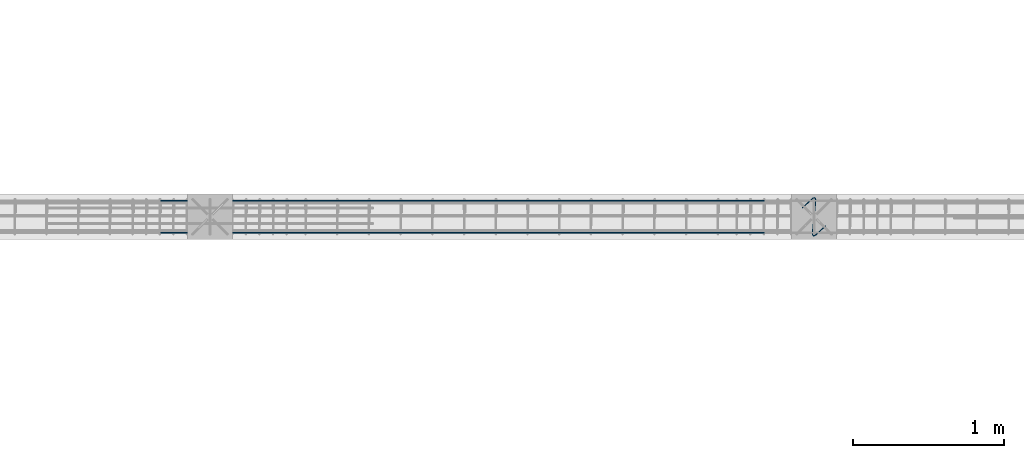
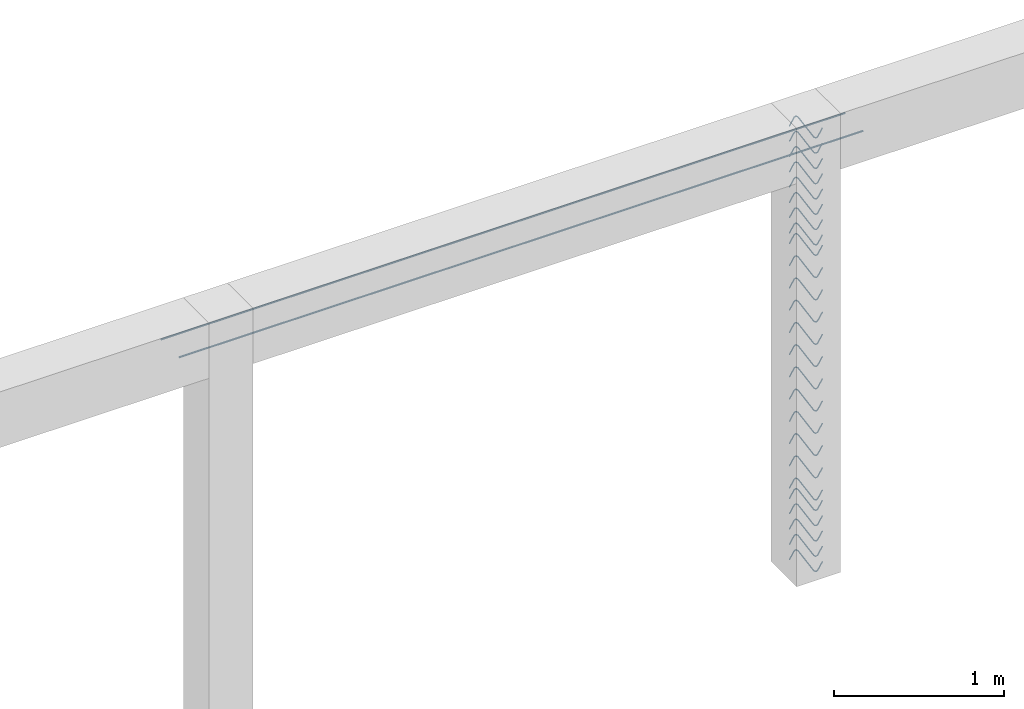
# One storey, part 10 of 24: 2 reinforcing bars.
"""IFC2X3 building model written with IfcOpenShell, lengths in metres."""

from ifc_helpers import new_model, entity, si_unit, direction, frame, origin, place, context, subcontext, project, spatial, shape, source, transform, mapped, element, save


model = new_model("IFC2X3")

# Units and contexts
model_context = context("Model", 3, precision=0.0, world=origin(), true_north=direction((0.0, 1.0)))
plan_context = context("Plan", 3, precision=0.0, world=origin(), true_north=direction((0.0, 1.0)))
body_context = subcontext(model_context, "Body", "Model", "MODEL_VIEW", scale=1.0)
ifc_project = project(units=[si_unit("LENGTHUNIT", "METRE"), si_unit("AREAUNIT", "SQUARE_METRE"), si_unit("VOLUMEUNIT", "CUBIC_METRE"), si_unit("PLANEANGLEUNIT", "RADIAN"), si_unit("THERMODYNAMICTEMPERATUREUNIT", "DEGREE_CELSIUS"), si_unit("FORCEUNIT", "NEWTON"), si_unit("MASSUNIT", "GRAM", prefix="KILO")], contexts=[model_context, plan_context])

# Site, building, storey
placement = place(None, origin())
site = spatial("IfcSite", under=ifc_project, at=placement, Name="Default Site", CompositionType="ELEMENT")
building = spatial("IfcBuilding", under=site, at=placement, Name="Default Building", CompositionType="ELEMENT")
storey_placement = place(placement, frame((0.0, 0.0, 3.3), z_axis=(1.0, 0.0, 0.0), x_axis=(0.0, 0.0, 1.0)))
storey = spatial("IfcBuildingStorey", under=building, at=storey_placement, Name="Piano 2", CompositionType="ELEMENT", Elevation=3.3)

# Reinforcing bars
shared_shape_1 = source(origin(), body_context, None, "AdvancedSweptSolid", [
    entity("IfcSweptDiskSolid", entity("IfcCompositeCurve", [entity("IfcCompositeCurveSegment", "CONTINUOUS", True, entity("IfcPolyline", [entity("IfcCartesianPoint", [0.0, 0.0, 0.0]), entity("IfcCartesianPoint", [0.326909, 0.0, 0.0]), entity("IfcCartesianPoint", [4.326909, 0.0, 0.0]), entity("IfcCartesianPoint", [4.653818, 0.0, 0.0])]))], False), 0.006, 0.0, 0.0),
])
shared_shape_2 = source(origin(), body_context, None, "MappedRepresentation", [mapped(shared_shape_1, transform((-0.326909, 5.106, 3.087)))])
shared_shape_3 = source(origin(), body_context, None, "AdvancedSweptSolid", [
    entity("IfcSweptDiskSolid", entity("IfcCompositeCurve", [entity("IfcCompositeCurveSegment", "CONTINUOUS", True, entity("IfcPolyline", [entity("IfcCartesianPoint", [0.0, 0.0, 0.0]), entity("IfcCartesianPoint", [0.326909, 0.0, 0.0]), entity("IfcCartesianPoint", [4.326909, 0.0, 0.0]), entity("IfcCartesianPoint", [4.653818, 0.0, 0.0])]))], False), 0.006, 0.0, 0.0),
])
shared_shape_4 = source(origin(), body_context, None, "MappedRepresentation", [mapped(shared_shape_3, transform((-0.326909, 4.894, 3.087)))])
element("IfcReinforcingBar", 1, at=placement, inside=storey, Name="Arm Generica; Trave:4 [Piano:2]", BarLength=9.307635, BarRole="NOTDEFINED", BarSurface="TEXTURED", NominalDiameter=0.012, shapes=[
    shape(body_context, None, "MappedRepresentation", [mapped(shared_shape_2, transform((0.0, 0.0, 0.0))), mapped(shared_shape_4, transform((0.0, 0.0, 0.0)))]),
])
shared_shape_5 = source(origin(), body_context, None, "AdvancedSweptSolid", [
    entity("IfcSweptDiskSolid", entity("IfcCompositeCurve", [entity("IfcCompositeCurveSegment", "CONTINUOUS", True, entity("IfcPolyline", [entity("IfcCartesianPoint", [0.0, 0.0, 0.0]), entity("IfcCartesianPoint", [-0.068884, -0.063585, 0.0]), entity("IfcCartesianPoint", [-0.079736, -0.067828, 0.0]), entity("IfcCartesianPoint", [-0.084613, -0.065808, 0.0]), entity("IfcCartesianPoint", [-0.089037, -0.055129, 0.0]), entity("IfcCartesianPoint", [-0.089037, -0.052272, 0.0]), entity("IfcCartesianPoint", [-0.067037, 0.168616, 0.0]), entity("IfcCartesianPoint", [-0.067037, 0.171101, 0.0]), entity("IfcCartesianPoint", [-0.071723, 0.182415, 0.0]), entity("IfcCartesianPoint", [-0.075966, 0.184172, 0.0]), entity("IfcCartesianPoint", [-0.08719, 0.179929, 0.0]), entity("IfcCartesianPoint", [-0.156073, 0.116344, 0.0])]))], False), 0.004, 0.0, 0.0),
])
shared_shape_6 = source(origin(), body_context, None, "AdvancedSweptSolid", [
    entity("IfcSweptDiskSolid", entity("IfcCompositeCurve", [entity("IfcCompositeCurveSegment", "CONTINUOUS", True, entity("IfcPolyline", [entity("IfcCartesianPoint", [0.0, 0.0, 0.0]), entity("IfcCartesianPoint", [-0.068884, -0.063585, 0.0]), entity("IfcCartesianPoint", [-0.079736, -0.067828, 0.0]), entity("IfcCartesianPoint", [-0.084613, -0.065808, 0.0]), entity("IfcCartesianPoint", [-0.089037, -0.055129, 0.0]), entity("IfcCartesianPoint", [-0.089037, -0.052272, 0.0]), entity("IfcCartesianPoint", [-0.067037, 0.168616, 0.0]), entity("IfcCartesianPoint", [-0.067037, 0.171101, 0.0]), entity("IfcCartesianPoint", [-0.071723, 0.182415, 0.0]), entity("IfcCartesianPoint", [-0.075966, 0.184172, 0.0]), entity("IfcCartesianPoint", [-0.08719, 0.179929, 0.0]), entity("IfcCartesianPoint", [-0.156073, 0.116344, 0.0])]))], False), 0.004, 0.0, 0.0),
])
shared_shape_7 = source(origin(), body_context, None, "AdvancedSweptSolid", [
    entity("IfcSweptDiskSolid", entity("IfcCompositeCurve", [entity("IfcCompositeCurveSegment", "CONTINUOUS", True, entity("IfcPolyline", [entity("IfcCartesianPoint", [0.0, 0.0, 0.0]), entity("IfcCartesianPoint", [-0.068884, -0.063585, 0.0]), entity("IfcCartesianPoint", [-0.079736, -0.067828, 0.0]), entity("IfcCartesianPoint", [-0.084613, -0.065808, 0.0]), entity("IfcCartesianPoint", [-0.089037, -0.055129, 0.0]), entity("IfcCartesianPoint", [-0.089037, -0.052272, 0.0]), entity("IfcCartesianPoint", [-0.067037, 0.168616, 0.0]), entity("IfcCartesianPoint", [-0.067037, 0.171101, 0.0]), entity("IfcCartesianPoint", [-0.071723, 0.182415, 0.0]), entity("IfcCartesianPoint", [-0.075966, 0.184172, 0.0]), entity("IfcCartesianPoint", [-0.08719, 0.179929, 0.0]), entity("IfcCartesianPoint", [-0.156073, 0.116344, 0.0])]))], False), 0.004, 0.0, 0.0),
])
shared_shape_8 = source(origin(), body_context, None, "AdvancedSweptSolid", [
    entity("IfcSweptDiskSolid", entity("IfcCompositeCurve", [entity("IfcCompositeCurveSegment", "CONTINUOUS", True, entity("IfcPolyline", [entity("IfcCartesianPoint", [0.0, 0.0, 0.0]), entity("IfcCartesianPoint", [-0.068884, -0.063585, 0.0]), entity("IfcCartesianPoint", [-0.079736, -0.067828, 0.0]), entity("IfcCartesianPoint", [-0.084613, -0.065808, 0.0]), entity("IfcCartesianPoint", [-0.089037, -0.055129, 0.0]), entity("IfcCartesianPoint", [-0.089037, -0.052272, 0.0]), entity("IfcCartesianPoint", [-0.067037, 0.168616, 0.0]), entity("IfcCartesianPoint", [-0.067037, 0.171101, 0.0]), entity("IfcCartesianPoint", [-0.071723, 0.182415, 0.0]), entity("IfcCartesianPoint", [-0.075966, 0.184172, 0.0]), entity("IfcCartesianPoint", [-0.08719, 0.179929, 0.0]), entity("IfcCartesianPoint", [-0.156073, 0.116344, 0.0])]))], False), 0.004, 0.0, 0.0),
])
shared_shape_9 = source(origin(), body_context, None, "AdvancedSweptSolid", [
    entity("IfcSweptDiskSolid", entity("IfcCompositeCurve", [entity("IfcCompositeCurveSegment", "CONTINUOUS", True, entity("IfcPolyline", [entity("IfcCartesianPoint", [0.0, 0.0, 0.0]), entity("IfcCartesianPoint", [-0.068884, -0.063585, 0.0]), entity("IfcCartesianPoint", [-0.079736, -0.067828, 0.0]), entity("IfcCartesianPoint", [-0.084613, -0.065808, 0.0]), entity("IfcCartesianPoint", [-0.089037, -0.055129, 0.0]), entity("IfcCartesianPoint", [-0.089037, -0.052272, 0.0]), entity("IfcCartesianPoint", [-0.067037, 0.168616, 0.0]), entity("IfcCartesianPoint", [-0.067037, 0.171101, 0.0]), entity("IfcCartesianPoint", [-0.071723, 0.182415, 0.0]), entity("IfcCartesianPoint", [-0.075966, 0.184172, 0.0]), entity("IfcCartesianPoint", [-0.08719, 0.179929, 0.0]), entity("IfcCartesianPoint", [-0.156073, 0.116344, 0.0])]))], False), 0.004, 0.0, 0.0),
])
shared_shape_10 = source(origin(), body_context, None, "AdvancedSweptSolid", [
    entity("IfcSweptDiskSolid", entity("IfcCompositeCurve", [entity("IfcCompositeCurveSegment", "CONTINUOUS", True, entity("IfcPolyline", [entity("IfcCartesianPoint", [0.0, 0.0, 0.0]), entity("IfcCartesianPoint", [-0.068884, -0.063585, 0.0]), entity("IfcCartesianPoint", [-0.079736, -0.067828, 0.0]), entity("IfcCartesianPoint", [-0.084613, -0.065808, 0.0]), entity("IfcCartesianPoint", [-0.089037, -0.055129, 0.0]), entity("IfcCartesianPoint", [-0.089037, -0.052272, 0.0]), entity("IfcCartesianPoint", [-0.067037, 0.168616, 0.0]), entity("IfcCartesianPoint", [-0.067037, 0.171101, 0.0]), entity("IfcCartesianPoint", [-0.071723, 0.182415, 0.0]), entity("IfcCartesianPoint", [-0.075966, 0.184172, 0.0]), entity("IfcCartesianPoint", [-0.08719, 0.179929, 0.0]), entity("IfcCartesianPoint", [-0.156073, 0.116344, 0.0])]))], False), 0.004, 0.0, 0.0),
])
shared_shape_11 = source(origin(), body_context, None, "AdvancedSweptSolid", [
    entity("IfcSweptDiskSolid", entity("IfcCompositeCurve", [entity("IfcCompositeCurveSegment", "CONTINUOUS", True, entity("IfcPolyline", [entity("IfcCartesianPoint", [0.0, 0.0, 0.0]), entity("IfcCartesianPoint", [-0.068884, -0.063585, 0.0]), entity("IfcCartesianPoint", [-0.079736, -0.067828, 0.0]), entity("IfcCartesianPoint", [-0.084613, -0.065808, 0.0]), entity("IfcCartesianPoint", [-0.089037, -0.055129, 0.0]), entity("IfcCartesianPoint", [-0.089037, -0.052272, 0.0]), entity("IfcCartesianPoint", [-0.067037, 0.168616, 0.0]), entity("IfcCartesianPoint", [-0.067037, 0.171101, 0.0]), entity("IfcCartesianPoint", [-0.071723, 0.182415, 0.0]), entity("IfcCartesianPoint", [-0.075966, 0.184172, 0.0]), entity("IfcCartesianPoint", [-0.08719, 0.179929, 0.0]), entity("IfcCartesianPoint", [-0.156073, 0.116344, 0.0])]))], False), 0.004, 0.0, 0.0),
])
shared_shape_12 = source(origin(), body_context, None, "AdvancedSweptSolid", [
    entity("IfcSweptDiskSolid", entity("IfcCompositeCurve", [entity("IfcCompositeCurveSegment", "CONTINUOUS", True, entity("IfcPolyline", [entity("IfcCartesianPoint", [0.0, 0.0, 0.0]), entity("IfcCartesianPoint", [-0.068884, -0.063585, 0.0]), entity("IfcCartesianPoint", [-0.079736, -0.067828, 0.0]), entity("IfcCartesianPoint", [-0.084613, -0.065808, 0.0]), entity("IfcCartesianPoint", [-0.089037, -0.055129, 0.0]), entity("IfcCartesianPoint", [-0.089037, -0.052272, 0.0]), entity("IfcCartesianPoint", [-0.067037, 0.168616, 0.0]), entity("IfcCartesianPoint", [-0.067037, 0.171101, 0.0]), entity("IfcCartesianPoint", [-0.071723, 0.182415, 0.0]), entity("IfcCartesianPoint", [-0.075966, 0.184172, 0.0]), entity("IfcCartesianPoint", [-0.08719, 0.179929, 0.0]), entity("IfcCartesianPoint", [-0.156073, 0.116344, 0.0])]))], False), 0.004, 0.0, 0.0),
])
shared_shape_13 = source(origin(), body_context, None, "AdvancedSweptSolid", [
    entity("IfcSweptDiskSolid", entity("IfcCompositeCurve", [entity("IfcCompositeCurveSegment", "CONTINUOUS", True, entity("IfcPolyline", [entity("IfcCartesianPoint", [0.0, 0.0, 0.0]), entity("IfcCartesianPoint", [-0.068884, -0.063585, 0.0]), entity("IfcCartesianPoint", [-0.079736, -0.067828, 0.0]), entity("IfcCartesianPoint", [-0.084613, -0.065808, 0.0]), entity("IfcCartesianPoint", [-0.089037, -0.055129, 0.0]), entity("IfcCartesianPoint", [-0.089037, -0.052272, 0.0]), entity("IfcCartesianPoint", [-0.067037, 0.168616, 0.0]), entity("IfcCartesianPoint", [-0.067037, 0.171101, 0.0]), entity("IfcCartesianPoint", [-0.071723, 0.182415, 0.0]), entity("IfcCartesianPoint", [-0.075966, 0.184172, 0.0]), entity("IfcCartesianPoint", [-0.08719, 0.179929, 0.0]), entity("IfcCartesianPoint", [-0.156073, 0.116344, 0.0])]))], False), 0.004, 0.0, 0.0),
])
shared_shape_14 = source(origin(), body_context, None, "AdvancedSweptSolid", [
    entity("IfcSweptDiskSolid", entity("IfcCompositeCurve", [entity("IfcCompositeCurveSegment", "CONTINUOUS", True, entity("IfcPolyline", [entity("IfcCartesianPoint", [0.0, 0.0, 0.0]), entity("IfcCartesianPoint", [-0.068884, -0.063585, 0.0]), entity("IfcCartesianPoint", [-0.079736, -0.067828, 0.0]), entity("IfcCartesianPoint", [-0.084613, -0.065808, 0.0]), entity("IfcCartesianPoint", [-0.089037, -0.055129, 0.0]), entity("IfcCartesianPoint", [-0.089037, -0.052272, 0.0]), entity("IfcCartesianPoint", [-0.067037, 0.168616, 0.0]), entity("IfcCartesianPoint", [-0.067037, 0.171101, 0.0]), entity("IfcCartesianPoint", [-0.071723, 0.182415, 0.0]), entity("IfcCartesianPoint", [-0.075966, 0.184172, 0.0]), entity("IfcCartesianPoint", [-0.08719, 0.179929, 0.0]), entity("IfcCartesianPoint", [-0.156073, 0.116344, 0.0])]))], False), 0.004, 0.0, 0.0),
])
shared_shape_15 = source(origin(), body_context, None, "AdvancedSweptSolid", [
    entity("IfcSweptDiskSolid", entity("IfcCompositeCurve", [entity("IfcCompositeCurveSegment", "CONTINUOUS", True, entity("IfcPolyline", [entity("IfcCartesianPoint", [0.0, 0.0, 0.0]), entity("IfcCartesianPoint", [-0.068884, -0.063585, 0.0]), entity("IfcCartesianPoint", [-0.079736, -0.067828, 0.0]), entity("IfcCartesianPoint", [-0.084613, -0.065808, 0.0]), entity("IfcCartesianPoint", [-0.089037, -0.055129, 0.0]), entity("IfcCartesianPoint", [-0.089037, -0.052272, 0.0]), entity("IfcCartesianPoint", [-0.067037, 0.168616, 0.0]), entity("IfcCartesianPoint", [-0.067037, 0.171101, 0.0]), entity("IfcCartesianPoint", [-0.071723, 0.182415, 0.0]), entity("IfcCartesianPoint", [-0.075966, 0.184172, 0.0]), entity("IfcCartesianPoint", [-0.08719, 0.179929, 0.0]), entity("IfcCartesianPoint", [-0.156073, 0.116344, 0.0])]))], False), 0.004, 0.0, 0.0),
])
shared_shape_16 = source(origin(), body_context, None, "AdvancedSweptSolid", [
    entity("IfcSweptDiskSolid", entity("IfcCompositeCurve", [entity("IfcCompositeCurveSegment", "CONTINUOUS", True, entity("IfcPolyline", [entity("IfcCartesianPoint", [0.0, 0.0, 0.0]), entity("IfcCartesianPoint", [-0.068884, -0.063585, 0.0]), entity("IfcCartesianPoint", [-0.079736, -0.067828, 0.0]), entity("IfcCartesianPoint", [-0.084613, -0.065808, 0.0]), entity("IfcCartesianPoint", [-0.089037, -0.055129, 0.0]), entity("IfcCartesianPoint", [-0.089037, -0.052272, 0.0]), entity("IfcCartesianPoint", [-0.067037, 0.168616, 0.0]), entity("IfcCartesianPoint", [-0.067037, 0.171101, 0.0]), entity("IfcCartesianPoint", [-0.071723, 0.182415, 0.0]), entity("IfcCartesianPoint", [-0.075966, 0.184172, 0.0]), entity("IfcCartesianPoint", [-0.08719, 0.179929, 0.0]), entity("IfcCartesianPoint", [-0.156073, 0.116344, 0.0])]))], False), 0.004, 0.0, 0.0),
])
shared_shape_17 = source(origin(), body_context, None, "AdvancedSweptSolid", [
    entity("IfcSweptDiskSolid", entity("IfcCompositeCurve", [entity("IfcCompositeCurveSegment", "CONTINUOUS", True, entity("IfcPolyline", [entity("IfcCartesianPoint", [0.0, 0.0, 0.0]), entity("IfcCartesianPoint", [-0.068884, -0.063585, 0.0]), entity("IfcCartesianPoint", [-0.079736, -0.067828, 0.0]), entity("IfcCartesianPoint", [-0.084613, -0.065808, 0.0]), entity("IfcCartesianPoint", [-0.089037, -0.055129, 0.0]), entity("IfcCartesianPoint", [-0.089037, -0.052272, 0.0]), entity("IfcCartesianPoint", [-0.067037, 0.168616, 0.0]), entity("IfcCartesianPoint", [-0.067037, 0.171101, 0.0]), entity("IfcCartesianPoint", [-0.071723, 0.182415, 0.0]), entity("IfcCartesianPoint", [-0.075966, 0.184172, 0.0]), entity("IfcCartesianPoint", [-0.08719, 0.179929, 0.0]), entity("IfcCartesianPoint", [-0.156073, 0.116344, 0.0])]))], False), 0.004, 0.0, 0.0),
])
shared_shape_18 = source(origin(), body_context, None, "AdvancedSweptSolid", [
    entity("IfcSweptDiskSolid", entity("IfcCompositeCurve", [entity("IfcCompositeCurveSegment", "CONTINUOUS", True, entity("IfcPolyline", [entity("IfcCartesianPoint", [0.0, 0.0, 0.0]), entity("IfcCartesianPoint", [-0.068884, -0.063585, 0.0]), entity("IfcCartesianPoint", [-0.079736, -0.067828, 0.0]), entity("IfcCartesianPoint", [-0.084613, -0.065808, 0.0]), entity("IfcCartesianPoint", [-0.089037, -0.055129, 0.0]), entity("IfcCartesianPoint", [-0.089037, -0.052272, 0.0]), entity("IfcCartesianPoint", [-0.067037, 0.168616, 0.0]), entity("IfcCartesianPoint", [-0.067037, 0.171101, 0.0]), entity("IfcCartesianPoint", [-0.071723, 0.182415, 0.0]), entity("IfcCartesianPoint", [-0.075966, 0.184172, 0.0]), entity("IfcCartesianPoint", [-0.08719, 0.179929, 0.0]), entity("IfcCartesianPoint", [-0.156073, 0.116344, 0.0])]))], False), 0.004, 0.0, 0.0),
])
shared_shape_19 = source(origin(), body_context, None, "AdvancedSweptSolid", [
    entity("IfcSweptDiskSolid", entity("IfcCompositeCurve", [entity("IfcCompositeCurveSegment", "CONTINUOUS", True, entity("IfcPolyline", [entity("IfcCartesianPoint", [0.0, 0.0, 0.0]), entity("IfcCartesianPoint", [-0.068884, -0.063585, 0.0]), entity("IfcCartesianPoint", [-0.079736, -0.067828, 0.0]), entity("IfcCartesianPoint", [-0.084613, -0.065808, 0.0]), entity("IfcCartesianPoint", [-0.089037, -0.055129, 0.0]), entity("IfcCartesianPoint", [-0.089037, -0.052272, 0.0]), entity("IfcCartesianPoint", [-0.067037, 0.168616, 0.0]), entity("IfcCartesianPoint", [-0.067037, 0.171101, 0.0]), entity("IfcCartesianPoint", [-0.071723, 0.182415, 0.0]), entity("IfcCartesianPoint", [-0.075966, 0.184172, 0.0]), entity("IfcCartesianPoint", [-0.08719, 0.179929, 0.0]), entity("IfcCartesianPoint", [-0.156073, 0.116344, 0.0])]))], False), 0.004, 0.0, 0.0),
])
shared_shape_20 = source(origin(), body_context, None, "AdvancedSweptSolid", [
    entity("IfcSweptDiskSolid", entity("IfcCompositeCurve", [entity("IfcCompositeCurveSegment", "CONTINUOUS", True, entity("IfcPolyline", [entity("IfcCartesianPoint", [0.0, 0.0, 0.0]), entity("IfcCartesianPoint", [-0.068884, -0.063585, 0.0]), entity("IfcCartesianPoint", [-0.079736, -0.067828, 0.0]), entity("IfcCartesianPoint", [-0.084613, -0.065808, 0.0]), entity("IfcCartesianPoint", [-0.089037, -0.055129, 0.0]), entity("IfcCartesianPoint", [-0.089037, -0.052272, 0.0]), entity("IfcCartesianPoint", [-0.067037, 0.168616, 0.0]), entity("IfcCartesianPoint", [-0.067037, 0.171101, 0.0]), entity("IfcCartesianPoint", [-0.071723, 0.182415, 0.0]), entity("IfcCartesianPoint", [-0.075966, 0.184172, 0.0]), entity("IfcCartesianPoint", [-0.08719, 0.179929, 0.0]), entity("IfcCartesianPoint", [-0.156073, 0.116344, 0.0])]))], False), 0.004, 0.0, 0.0),
])
shared_shape_21 = source(origin(), body_context, None, "AdvancedSweptSolid", [
    entity("IfcSweptDiskSolid", entity("IfcCompositeCurve", [entity("IfcCompositeCurveSegment", "CONTINUOUS", True, entity("IfcPolyline", [entity("IfcCartesianPoint", [0.0, 0.0, 0.0]), entity("IfcCartesianPoint", [-0.068884, -0.063585, 0.0]), entity("IfcCartesianPoint", [-0.079736, -0.067828, 0.0]), entity("IfcCartesianPoint", [-0.084613, -0.065808, 0.0]), entity("IfcCartesianPoint", [-0.089037, -0.055129, 0.0]), entity("IfcCartesianPoint", [-0.089037, -0.052272, 0.0]), entity("IfcCartesianPoint", [-0.067037, 0.168616, 0.0]), entity("IfcCartesianPoint", [-0.067037, 0.171101, 0.0]), entity("IfcCartesianPoint", [-0.071723, 0.182415, 0.0]), entity("IfcCartesianPoint", [-0.075966, 0.184172, 0.0]), entity("IfcCartesianPoint", [-0.08719, 0.179929, 0.0]), entity("IfcCartesianPoint", [-0.156073, 0.116344, 0.0])]))], False), 0.004, 0.0, 0.0),
])
shared_shape_22 = source(origin(), body_context, None, "AdvancedSweptSolid", [
    entity("IfcSweptDiskSolid", entity("IfcCompositeCurve", [entity("IfcCompositeCurveSegment", "CONTINUOUS", True, entity("IfcPolyline", [entity("IfcCartesianPoint", [0.0, 0.0, 0.0]), entity("IfcCartesianPoint", [-0.068884, -0.063585, 0.0]), entity("IfcCartesianPoint", [-0.079736, -0.067828, 0.0]), entity("IfcCartesianPoint", [-0.084613, -0.065808, 0.0]), entity("IfcCartesianPoint", [-0.089037, -0.055129, 0.0]), entity("IfcCartesianPoint", [-0.089037, -0.052272, 0.0]), entity("IfcCartesianPoint", [-0.067037, 0.168616, 0.0]), entity("IfcCartesianPoint", [-0.067037, 0.171101, 0.0]), entity("IfcCartesianPoint", [-0.071723, 0.182415, 0.0]), entity("IfcCartesianPoint", [-0.075966, 0.184172, 0.0]), entity("IfcCartesianPoint", [-0.08719, 0.179929, 0.0]), entity("IfcCartesianPoint", [-0.156073, 0.116344, 0.0])]))], False), 0.004, 0.0, 0.0),
])
shared_shape_23 = source(origin(), body_context, None, "AdvancedSweptSolid", [
    entity("IfcSweptDiskSolid", entity("IfcCompositeCurve", [entity("IfcCompositeCurveSegment", "CONTINUOUS", True, entity("IfcPolyline", [entity("IfcCartesianPoint", [0.0, 0.0, 0.0]), entity("IfcCartesianPoint", [-0.068884, -0.063585, 0.0]), entity("IfcCartesianPoint", [-0.079736, -0.067828, 0.0]), entity("IfcCartesianPoint", [-0.084613, -0.065808, 0.0]), entity("IfcCartesianPoint", [-0.089037, -0.055129, 0.0]), entity("IfcCartesianPoint", [-0.089037, -0.052272, 0.0]), entity("IfcCartesianPoint", [-0.067037, 0.168616, 0.0]), entity("IfcCartesianPoint", [-0.067037, 0.171101, 0.0]), entity("IfcCartesianPoint", [-0.071723, 0.182415, 0.0]), entity("IfcCartesianPoint", [-0.075966, 0.184172, 0.0]), entity("IfcCartesianPoint", [-0.08719, 0.179929, 0.0]), entity("IfcCartesianPoint", [-0.156073, 0.116344, 0.0])]))], False), 0.004, 0.0, 0.0),
])
shared_shape_24 = source(origin(), body_context, None, "AdvancedSweptSolid", [
    entity("IfcSweptDiskSolid", entity("IfcCompositeCurve", [entity("IfcCompositeCurveSegment", "CONTINUOUS", True, entity("IfcPolyline", [entity("IfcCartesianPoint", [0.0, 0.0, 0.0]), entity("IfcCartesianPoint", [-0.068884, -0.063585, 0.0]), entity("IfcCartesianPoint", [-0.079736, -0.067828, 0.0]), entity("IfcCartesianPoint", [-0.084613, -0.065808, 0.0]), entity("IfcCartesianPoint", [-0.089037, -0.055129, 0.0]), entity("IfcCartesianPoint", [-0.089037, -0.052272, 0.0]), entity("IfcCartesianPoint", [-0.067037, 0.168616, 0.0]), entity("IfcCartesianPoint", [-0.067037, 0.171101, 0.0]), entity("IfcCartesianPoint", [-0.071723, 0.182415, 0.0]), entity("IfcCartesianPoint", [-0.075966, 0.184172, 0.0]), entity("IfcCartesianPoint", [-0.08719, 0.179929, 0.0]), entity("IfcCartesianPoint", [-0.156073, 0.116344, 0.0])]))], False), 0.004, 0.0, 0.0),
])
shared_shape_25 = source(origin(), body_context, None, "AdvancedSweptSolid", [
    entity("IfcSweptDiskSolid", entity("IfcCompositeCurve", [entity("IfcCompositeCurveSegment", "CONTINUOUS", True, entity("IfcPolyline", [entity("IfcCartesianPoint", [0.0, 0.0, 0.0]), entity("IfcCartesianPoint", [-0.068884, -0.063585, 0.0]), entity("IfcCartesianPoint", [-0.079736, -0.067828, 0.0]), entity("IfcCartesianPoint", [-0.084613, -0.065808, 0.0]), entity("IfcCartesianPoint", [-0.089037, -0.055129, 0.0]), entity("IfcCartesianPoint", [-0.089037, -0.052272, 0.0]), entity("IfcCartesianPoint", [-0.067037, 0.168616, 0.0]), entity("IfcCartesianPoint", [-0.067037, 0.171101, 0.0]), entity("IfcCartesianPoint", [-0.071723, 0.182415, 0.0]), entity("IfcCartesianPoint", [-0.075966, 0.184172, 0.0]), entity("IfcCartesianPoint", [-0.08719, 0.179929, 0.0]), entity("IfcCartesianPoint", [-0.156073, 0.116344, 0.0])]))], False), 0.004, 0.0, 0.0),
])
shared_shape_26 = source(origin(), body_context, None, "AdvancedSweptSolid", [
    entity("IfcSweptDiskSolid", entity("IfcCompositeCurve", [entity("IfcCompositeCurveSegment", "CONTINUOUS", True, entity("IfcPolyline", [entity("IfcCartesianPoint", [0.0, 0.0, 0.0]), entity("IfcCartesianPoint", [-0.068884, -0.063585, 0.0]), entity("IfcCartesianPoint", [-0.079736, -0.067828, 0.0]), entity("IfcCartesianPoint", [-0.084613, -0.065808, 0.0]), entity("IfcCartesianPoint", [-0.089037, -0.055129, 0.0]), entity("IfcCartesianPoint", [-0.089037, -0.052272, 0.0]), entity("IfcCartesianPoint", [-0.067037, 0.168616, 0.0]), entity("IfcCartesianPoint", [-0.067037, 0.171101, 0.0]), entity("IfcCartesianPoint", [-0.071723, 0.182415, 0.0]), entity("IfcCartesianPoint", [-0.075966, 0.184172, 0.0]), entity("IfcCartesianPoint", [-0.08719, 0.179929, 0.0]), entity("IfcCartesianPoint", [-0.156073, 0.116344, 0.0])]))], False), 0.004, 0.0, 0.0),
])
shared_shape_27 = source(origin(), body_context, None, "AdvancedSweptSolid", [
    entity("IfcSweptDiskSolid", entity("IfcCompositeCurve", [entity("IfcCompositeCurveSegment", "CONTINUOUS", True, entity("IfcPolyline", [entity("IfcCartesianPoint", [0.0, 0.0, 0.0]), entity("IfcCartesianPoint", [-0.068884, -0.063585, 0.0]), entity("IfcCartesianPoint", [-0.079736, -0.067828, 0.0]), entity("IfcCartesianPoint", [-0.084613, -0.065808, 0.0]), entity("IfcCartesianPoint", [-0.089037, -0.055129, 0.0]), entity("IfcCartesianPoint", [-0.089037, -0.052272, 0.0]), entity("IfcCartesianPoint", [-0.067037, 0.168616, 0.0]), entity("IfcCartesianPoint", [-0.067037, 0.171101, 0.0]), entity("IfcCartesianPoint", [-0.071723, 0.182415, 0.0]), entity("IfcCartesianPoint", [-0.075966, 0.184172, 0.0]), entity("IfcCartesianPoint", [-0.08719, 0.179929, 0.0]), entity("IfcCartesianPoint", [-0.156073, 0.116344, 0.0])]))], False), 0.004, 0.0, 0.0),
])
shared_shape_28 = source(origin(), body_context, None, "AdvancedSweptSolid", [
    entity("IfcSweptDiskSolid", entity("IfcCompositeCurve", [entity("IfcCompositeCurveSegment", "CONTINUOUS", True, entity("IfcPolyline", [entity("IfcCartesianPoint", [0.0, 0.0, 0.0]), entity("IfcCartesianPoint", [-0.068884, -0.063585, 0.0]), entity("IfcCartesianPoint", [-0.079736, -0.067828, 0.0]), entity("IfcCartesianPoint", [-0.084613, -0.065808, 0.0]), entity("IfcCartesianPoint", [-0.089037, -0.055129, 0.0]), entity("IfcCartesianPoint", [-0.089037, -0.052272, 0.0]), entity("IfcCartesianPoint", [-0.067037, 0.168616, 0.0]), entity("IfcCartesianPoint", [-0.067037, 0.171101, 0.0]), entity("IfcCartesianPoint", [-0.071723, 0.182415, 0.0]), entity("IfcCartesianPoint", [-0.075966, 0.184172, 0.0]), entity("IfcCartesianPoint", [-0.08719, 0.179929, 0.0]), entity("IfcCartesianPoint", [-0.156073, 0.116344, 0.0])]))], False), 0.004, 0.0, 0.0),
])
shared_shape_29 = source(origin(), body_context, None, "AdvancedSweptSolid", [
    entity("IfcSweptDiskSolid", entity("IfcCompositeCurve", [entity("IfcCompositeCurveSegment", "CONTINUOUS", True, entity("IfcPolyline", [entity("IfcCartesianPoint", [0.0, 0.0, 0.0]), entity("IfcCartesianPoint", [-0.068884, -0.063585, 0.0]), entity("IfcCartesianPoint", [-0.079736, -0.067828, 0.0]), entity("IfcCartesianPoint", [-0.084613, -0.065808, 0.0]), entity("IfcCartesianPoint", [-0.089037, -0.055129, 0.0]), entity("IfcCartesianPoint", [-0.089037, -0.052272, 0.0]), entity("IfcCartesianPoint", [-0.067037, 0.168616, 0.0]), entity("IfcCartesianPoint", [-0.067037, 0.171101, 0.0]), entity("IfcCartesianPoint", [-0.071723, 0.182415, 0.0]), entity("IfcCartesianPoint", [-0.075966, 0.184172, 0.0]), entity("IfcCartesianPoint", [-0.08719, 0.179929, 0.0]), entity("IfcCartesianPoint", [-0.156073, 0.116344, 0.0])]))], False), 0.004, 0.0, 0.0),
])
element("IfcReinforcingBar", 2, at=placement, inside=storey, Name="Arm Spillo; Pilastro:12 [Piano:2]", BarLength=11.916409, BarRole="LIGATURE", BarSurface="TEXTURED", NominalDiameter=0.008, shapes=[
    shape(body_context, None, "MappedRepresentation", [mapped(shared_shape_5, transform((4.078037, 4.941828, 2.945))), mapped(shared_shape_6, transform((4.078037, 4.941828, 3.055))), mapped(shared_shape_7, transform((4.078037, 4.941828, 3.165))), mapped(shared_shape_8, transform((4.078037, 4.941828, 2.835))), mapped(shared_shape_9, transform((4.078037, 4.941828, 2.725))), mapped(shared_shape_10, transform((4.078037, 4.941828, 2.615))), mapped(shared_shape_11, transform((4.078037, 4.941828, 2.505))), mapped(shared_shape_12, transform((4.078037, 4.941828, 2.395))), mapped(shared_shape_13, transform((4.078037, 4.941828, 2.32))), mapped(shared_shape_14, transform((4.078037, 4.941828, 2.16))), mapped(shared_shape_15, transform((4.078037, 4.941828, 2.0))), mapped(shared_shape_16, transform((4.078037, 4.941828, 1.84))), mapped(shared_shape_17, transform((4.078037, 4.941828, 1.68))), mapped(shared_shape_18, transform((4.078037, 4.941828, 1.52))), mapped(shared_shape_19, transform((4.078037, 4.941828, 1.36))), mapped(shared_shape_20, transform((4.078037, 4.941828, 1.2))), mapped(shared_shape_21, transform((4.078037, 4.941828, 1.04))), mapped(shared_shape_22, transform((4.078037, 4.941828, 0.88))), mapped(shared_shape_23, transform((4.078037, 4.941828, 0.72))), mapped(shared_shape_24, transform((4.078037, 4.941828, 0.56))), mapped(shared_shape_25, transform((4.078037, 4.941828, 0.045))), mapped(shared_shape_26, transform((4.078037, 4.941828, 0.155))), mapped(shared_shape_27, transform((4.078037, 4.941828, 0.265))), mapped(shared_shape_28, transform((4.078037, 4.941828, 0.375))), mapped(shared_shape_29, transform((4.078037, 4.941828, 0.485)))]),
])

save(model, "model.ifc")
